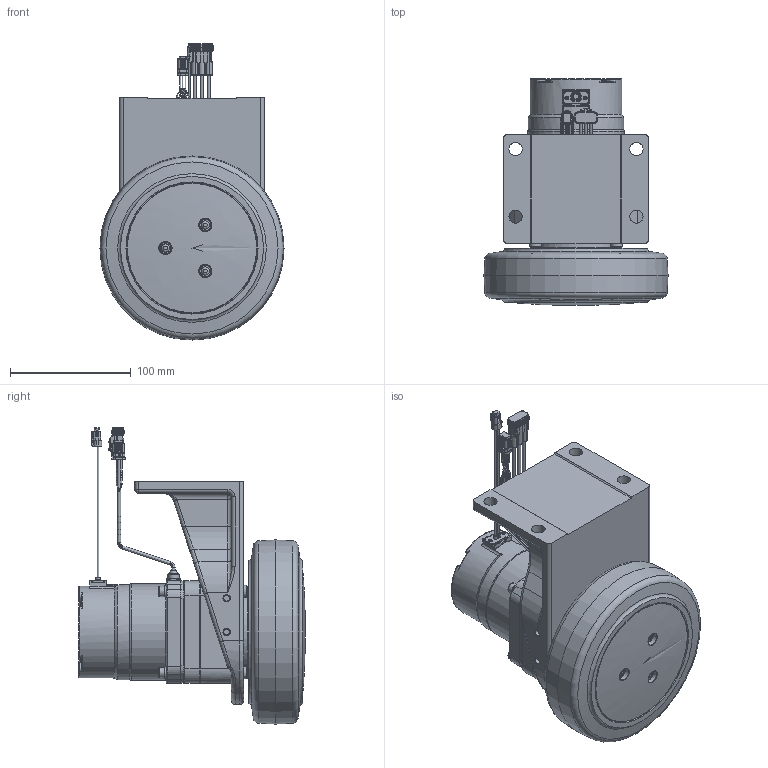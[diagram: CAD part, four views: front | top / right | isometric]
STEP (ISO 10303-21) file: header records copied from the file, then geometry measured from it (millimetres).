
FILE_DESCRIPTION(/* description */ (''),/* implementation_level */ '2;1');
FILE_NAME(/* name */ 'MS94BZC_outsidemodel.stp',/* time_stamp */ '2021-07-20T09:22:41+09:00',/* author */ (''),/* organization */ (''),/* preprocessor_version */ 'ST-DEVELOPER v16.7',/* originating_system */ 'SIEMENS PLM Software NX 12.0',/* authorisation */ '');
FILE_SCHEMA (('AUTOMOTIVE_DESIGN { 1 0 10303 214 3 1 1 1 }'));
Products named in the file (1): MS94BZC_outsidemodel
Bounding box: 152.5 x 187.7 x 245.25 mm (x, y, z)
Volume: 1759101.9 mm3; surface area: 232162.1 mm2
Topology: 1 solids, 28 shells, 2615 faces, 6299 edges, 3769 vertices
Faces by surface type: cylinder 990, plane 938, torus 326, bspline 185, cone 94, sphere 76, revolution 6
Full cylindrical faces by diameter (mm): 1 x42, 1.02 x6, 1.6 x2, 1.7 x2, 1.9 x2, 2.8 x13, 3 x8, 3.01 x2, 3.025 x6, 4.41 x2, 4.5 x5, 5 x9, 5.25 x4, 5.3 x4, 5.55 x4, 6 x8, 6.3 x4, 6.5 x4, 6.8 x1, 7 x4, 8.5 x4, 9.1 x3, 9.2 x4, 10 x4, 10.3 x4, 10.5 x3, 11 x4, 11.5 x4, 13.5 x4, 23.795 x1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
Entity records: 79429 total; most frequent: CARTESIAN_POINT 19639, DIRECTION 12265, ORIENTED_EDGE 11516, EDGE_CURVE 5758, AXIS2_PLACEMENT_3D 4724, VERTEX_POINT 3652, EDGE_LOOP 3156, LINE 2811
